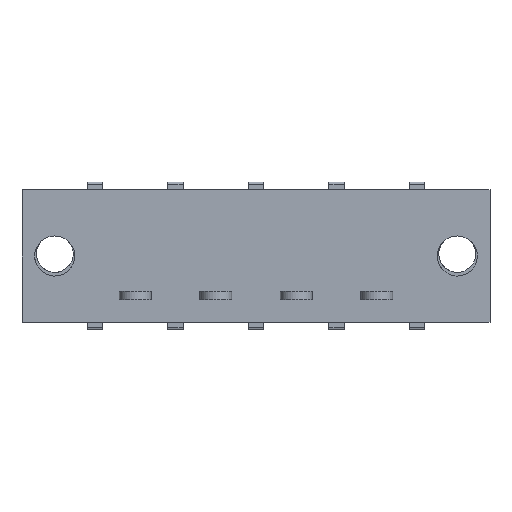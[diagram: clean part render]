
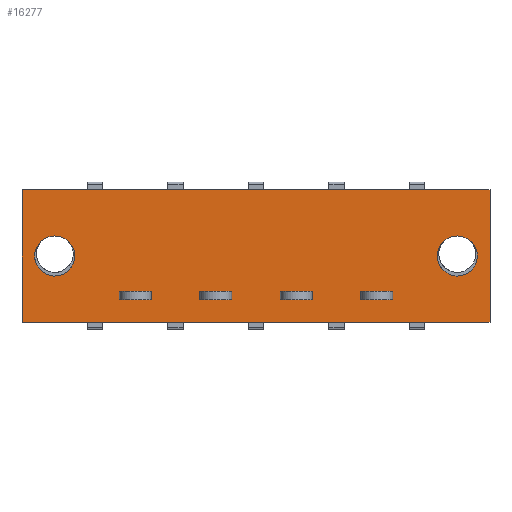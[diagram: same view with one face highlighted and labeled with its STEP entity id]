
A CAD part, front view. The second image highlights one B-rep face of the part: STEP entity #16277.
In plain terms, the highlighted planar face has unit normal (0, -1, 0).
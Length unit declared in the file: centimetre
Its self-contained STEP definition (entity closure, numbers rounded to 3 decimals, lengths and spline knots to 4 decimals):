
#780=PLANE('',#26741);
#1604=VECTOR('',#17561,1.);
#1812=VECTOR('',#18016,1.);
#1816=VECTOR('',#18021,1.);
#1819=VECTOR('',#18044,1.);
#1822=VECTOR('',#18048,1.);
#1871=VECTOR('',#18143,1.);
#1882=VECTOR('',#18157,1.);
#1883=VECTOR('',#18158,1.);
#1884=VECTOR('',#18159,1.);
#1885=VECTOR('',#18160,1.);
#1886=VECTOR('',#18161,1.);
#1887=VECTOR('',#18162,1.);
#1888=VECTOR('',#18163,1.);
#1889=VECTOR('',#18164,1.);
#1890=VECTOR('',#18165,1.);
#1891=VECTOR('',#18166,1.);
#1892=VECTOR('',#18167,1.);
#1893=VECTOR('',#18168,1.);
#1894=VECTOR('',#18169,1.);
#1895=VECTOR('',#18170,1.);
#3400=LINE('',#21805,#1604);
#3608=LINE('',#22493,#1812);
#3612=LINE('',#22502,#1816);
#3615=LINE('',#22523,#1819);
#3618=LINE('',#22528,#1822);
#3667=LINE('',#22649,#1871);
#3678=LINE('',#22672,#1882);
#3679=LINE('',#22675,#1883);
#3680=LINE('',#22677,#1884);
#3681=LINE('',#22679,#1885);
#3682=LINE('',#22680,#1886);
#3683=LINE('',#22683,#1887);
#3684=LINE('',#22685,#1888);
#3685=LINE('',#22687,#1889);
#3686=LINE('',#22688,#1890);
#3687=LINE('',#22691,#1891);
#3688=LINE('',#22693,#1892);
#3689=LINE('',#22695,#1893);
#3690=LINE('',#22696,#1894);
#3691=LINE('',#22698,#1895);
#5129=VERTEX_POINT('',#21804);
#5130=VERTEX_POINT('',#21806);
#5131=VERTEX_POINT('',#21810);
#5336=VERTEX_POINT('',#22494);
#5337=VERTEX_POINT('',#22495);
#5340=VERTEX_POINT('',#22503);
#5347=VERTEX_POINT('',#22524);
#5390=VERTEX_POINT('',#22650);
#5399=VERTEX_POINT('',#22671);
#5400=VERTEX_POINT('',#22673);
#5401=VERTEX_POINT('',#22674);
#5402=VERTEX_POINT('',#22676);
#5403=VERTEX_POINT('',#22678);
#5404=VERTEX_POINT('',#22681);
#5405=VERTEX_POINT('',#22682);
#5406=VERTEX_POINT('',#22684);
#5407=VERTEX_POINT('',#22686);
#5408=VERTEX_POINT('',#22689);
#5409=VERTEX_POINT('',#22690);
#5410=VERTEX_POINT('',#22692);
#5411=VERTEX_POINT('',#22694);
#5412=VERTEX_POINT('',#22697);
#6380=CIRCLE('',#26537,0.19);
#6456=CIRCLE('',#26742,0.19);
#7194=EDGE_CURVE('',#5130,#5129,#3400,.T.);
#7196=EDGE_CURVE('',#5131,#5131,#6380,.T.);
#7497=EDGE_CURVE('',#5336,#5337,#3608,.T.);
#7501=EDGE_CURVE('',#5340,#5336,#3612,.T.);
#7510=EDGE_CURVE('',#5337,#5347,#3615,.T.);
#7513=EDGE_CURVE('',#5347,#5340,#3618,.T.);
#7573=EDGE_CURVE('',#5390,#5129,#3667,.T.);
#7584=EDGE_CURVE('',#5399,#5399,#6456,.T.);
#7585=EDGE_CURVE('',#5400,#5401,#3678,.T.);
#7586=EDGE_CURVE('',#5401,#5402,#3679,.T.);
#7587=EDGE_CURVE('',#5402,#5403,#3680,.T.);
#7588=EDGE_CURVE('',#5403,#5400,#3681,.T.);
#7589=EDGE_CURVE('',#5404,#5405,#3682,.T.);
#7590=EDGE_CURVE('',#5405,#5406,#3683,.T.);
#7591=EDGE_CURVE('',#5406,#5407,#3684,.T.);
#7592=EDGE_CURVE('',#5407,#5404,#3685,.T.);
#7593=EDGE_CURVE('',#5408,#5409,#3686,.T.);
#7594=EDGE_CURVE('',#5409,#5410,#3687,.T.);
#7595=EDGE_CURVE('',#5410,#5411,#3688,.T.);
#7596=EDGE_CURVE('',#5411,#5408,#3689,.T.);
#7597=EDGE_CURVE('',#5412,#5130,#3690,.T.);
#7598=EDGE_CURVE('',#5412,#5390,#3691,.T.);
#10859=ORIENTED_EDGE('',*,*,#7196,.T.);
#10860=ORIENTED_EDGE('',*,*,#7584,.T.);
#10861=ORIENTED_EDGE('',*,*,#7501,.F.);
#10862=ORIENTED_EDGE('',*,*,#7513,.F.);
#10863=ORIENTED_EDGE('',*,*,#7510,.F.);
#10864=ORIENTED_EDGE('',*,*,#7497,.F.);
#10865=ORIENTED_EDGE('',*,*,#7585,.T.);
#10866=ORIENTED_EDGE('',*,*,#7586,.T.);
#10867=ORIENTED_EDGE('',*,*,#7587,.T.);
#10868=ORIENTED_EDGE('',*,*,#7588,.T.);
#10869=ORIENTED_EDGE('',*,*,#7589,.T.);
#10870=ORIENTED_EDGE('',*,*,#7590,.T.);
#10871=ORIENTED_EDGE('',*,*,#7591,.T.);
#10872=ORIENTED_EDGE('',*,*,#7592,.T.);
#10873=ORIENTED_EDGE('',*,*,#7593,.T.);
#10874=ORIENTED_EDGE('',*,*,#7594,.T.);
#10875=ORIENTED_EDGE('',*,*,#7595,.T.);
#10876=ORIENTED_EDGE('',*,*,#7596,.T.);
#10877=ORIENTED_EDGE('',*,*,#7597,.T.);
#10878=ORIENTED_EDGE('',*,*,#7194,.T.);
#10879=ORIENTED_EDGE('',*,*,#7573,.F.);
#10880=ORIENTED_EDGE('',*,*,#7598,.F.);
#14296=EDGE_LOOP('',(#10859));
#14297=EDGE_LOOP('',(#10860));
#14298=EDGE_LOOP('',(#10861,#10862,#10863,#10864));
#14299=EDGE_LOOP('',(#10865,#10866,#10867,#10868));
#14300=EDGE_LOOP('',(#10869,#10870,#10871,#10872));
#14301=EDGE_LOOP('',(#10873,#10874,#10875,#10876));
#14302=EDGE_LOOP('',(#10877,#10878,#10879,#10880));
#15306=FACE_BOUND('',#14296,.T.);
#15307=FACE_BOUND('',#14297,.T.);
#15308=FACE_BOUND('',#14298,.T.);
#15309=FACE_BOUND('',#14299,.T.);
#15310=FACE_BOUND('',#14300,.T.);
#15311=FACE_BOUND('',#14301,.T.);
#15312=FACE_BOUND('',#14302,.T.);
#16277=ADVANCED_FACE('',(#15306,#15307,#15308,#15309,#15310,#15311,#15312),
#780,.T.);
#17561=DIRECTION('',(0.,0.,1.));
#17565=DIRECTION('',(0.,1.,0.));
#17566=DIRECTION('',(0.19,0.,0.));
#18016=DIRECTION('',(0.,0.,-1.));
#18021=DIRECTION('',(-1.,0.,0.));
#18044=DIRECTION('',(1.,0.,0.));
#18048=DIRECTION('',(0.,0.,1.));
#18143=DIRECTION('',(1.,0.,0.));
#18154=DIRECTION('',(0.,-1.,0.));
#18155=DIRECTION('',(0.,1.,0.));
#18156=DIRECTION('',(0.19,0.,0.));
#18157=DIRECTION('',(1.,0.,0.));
#18158=DIRECTION('',(0.,0.,-1.));
#18159=DIRECTION('',(-1.,0.,0.));
#18160=DIRECTION('',(0.,0.,1.));
#18161=DIRECTION('',(1.,0.,0.));
#18162=DIRECTION('',(0.,0.,-1.));
#18163=DIRECTION('',(-1.,0.,0.));
#18164=DIRECTION('',(0.,0.,1.));
#18165=DIRECTION('',(1.,0.,0.));
#18166=DIRECTION('',(0.,0.,-1.));
#18167=DIRECTION('',(-1.,0.,0.));
#18168=DIRECTION('',(0.,0.,1.));
#18169=DIRECTION('',(1.,0.,0.));
#18170=DIRECTION('',(0.,0.,1.));
#21804=CARTESIAN_POINT('',(3.048,0.,0.625));
#21805=CARTESIAN_POINT('',(3.048,0.,-0.625));
#21806=CARTESIAN_POINT('',(3.048,0.,-0.625));
#21809=CARTESIAN_POINT('',(2.738,0.,0.));
#21810=CARTESIAN_POINT('',(2.548,0.,0.));
#22493=CARTESIAN_POINT('',(-0.46,0.,-0.1875));
#22494=CARTESIAN_POINT('',(-0.46,0.,-0.335));
#22495=CARTESIAN_POINT('',(-0.46,0.,-0.415));
#22502=CARTESIAN_POINT('',(-0.465,0.,-0.335));
#22503=CARTESIAN_POINT('',(-0.16,0.,-0.335));
#22523=CARTESIAN_POINT('',(-0.465,0.,-0.415));
#22524=CARTESIAN_POINT('',(-0.16,0.,-0.415));
#22528=CARTESIAN_POINT('',(-0.16,0.,-0.1875));
#22649=CARTESIAN_POINT('',(-1.382,0.,0.625));
#22650=CARTESIAN_POINT('',(-1.382,0.,0.625));
#22669=CARTESIAN_POINT('',(0.,0.,0.));
#22670=CARTESIAN_POINT('',(-1.072,0.,0.));
#22671=CARTESIAN_POINT('',(-1.262,0.,0.));
#22672=CARTESIAN_POINT('',(0.988,0.,-0.335));
#22673=CARTESIAN_POINT('',(1.826,0.,-0.335));
#22674=CARTESIAN_POINT('',(2.126,0.,-0.335));
#22675=CARTESIAN_POINT('',(2.126,0.,-0.1875));
#22676=CARTESIAN_POINT('',(2.126,0.,-0.415));
#22677=CARTESIAN_POINT('',(0.988,0.,-0.415));
#22678=CARTESIAN_POINT('',(1.826,0.,-0.415));
#22679=CARTESIAN_POINT('',(1.826,0.,-0.1875));
#22680=CARTESIAN_POINT('',(0.607,0.,-0.335));
#22681=CARTESIAN_POINT('',(1.064,0.,-0.335));
#22682=CARTESIAN_POINT('',(1.364,0.,-0.335));
#22683=CARTESIAN_POINT('',(1.364,0.,-0.1875));
#22684=CARTESIAN_POINT('',(1.364,0.,-0.415));
#22685=CARTESIAN_POINT('',(0.607,0.,-0.415));
#22686=CARTESIAN_POINT('',(1.064,0.,-0.415));
#22687=CARTESIAN_POINT('',(1.064,0.,-0.1875));
#22688=CARTESIAN_POINT('',(0.226,0.,-0.335));
#22689=CARTESIAN_POINT('',(0.302,0.,-0.335));
#22690=CARTESIAN_POINT('',(0.602,0.,-0.335));
#22691=CARTESIAN_POINT('',(0.602,0.,-0.1875));
#22692=CARTESIAN_POINT('',(0.602,0.,-0.415));
#22693=CARTESIAN_POINT('',(0.226,0.,-0.415));
#22694=CARTESIAN_POINT('',(0.302,0.,-0.415));
#22695=CARTESIAN_POINT('',(0.302,0.,-0.1875));
#22696=CARTESIAN_POINT('',(-1.382,0.,-0.625));
#22697=CARTESIAN_POINT('',(-1.382,0.,-0.625));
#22698=CARTESIAN_POINT('',(-1.382,0.,-0.625));
#26537=AXIS2_PLACEMENT_3D('',#21809,#17565,#17566);
#26741=AXIS2_PLACEMENT_3D('',#22669,#18154,$);
#26742=AXIS2_PLACEMENT_3D('',#22670,#18155,#18156);
